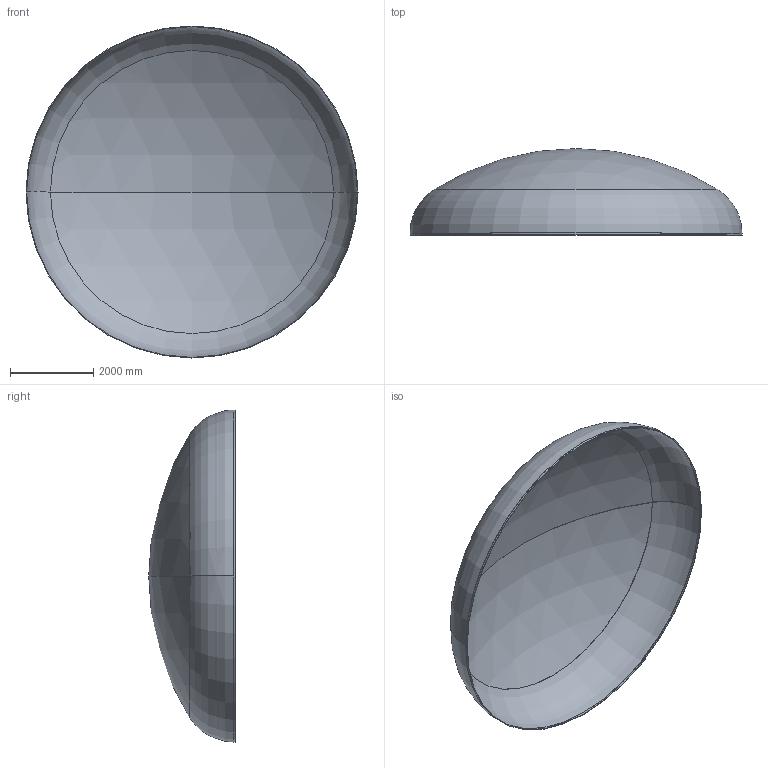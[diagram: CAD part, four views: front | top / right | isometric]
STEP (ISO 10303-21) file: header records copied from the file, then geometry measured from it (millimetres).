
FILE_DESCRIPTION (( 'STEP AP203' ), '1' );
FILE_NAME ('DIN 28013 Korbbogenform_-_Boden DIN 28013 - 8000 x 45 - I - s=14.step', '2016-07-04T10:58:38', ( '' ), ( '' ), 'SwSTEP 2.0', 'SolidWorks 2013', '' );
FILE_SCHEMA (( 'CONFIG_CONTROL_DESIGN' ));
Length unit declared in the file: millimetre
Products named in the file (1): DIN 28013 Korbbogenform_-_Boden DIN 28013 - 8000 x 45 - I - s=14
Bounding box: 8000 x 2084.83 x 8000 mm (x, y, z)
Volume: 987979557.4 mm3; surface area: 141491531.3 mm2
Topology: 1 solids, 1 shells, 13 faces, 24 edges, 14 vertices
Faces by surface type: torus 4, cylinder 4, sphere 4, plane 1
Entity records: 407 total; most frequent: DIRECTION 72, CARTESIAN_POINT 52, ORIENTED_EDGE 48, AXIS2_PLACEMENT_3D 34, EDGE_CURVE 24, CIRCLE 20, VERTEX_POINT 14, EDGE_LOOP 14
